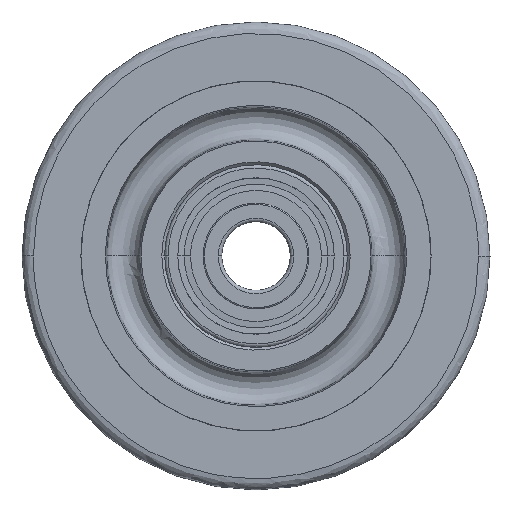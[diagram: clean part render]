
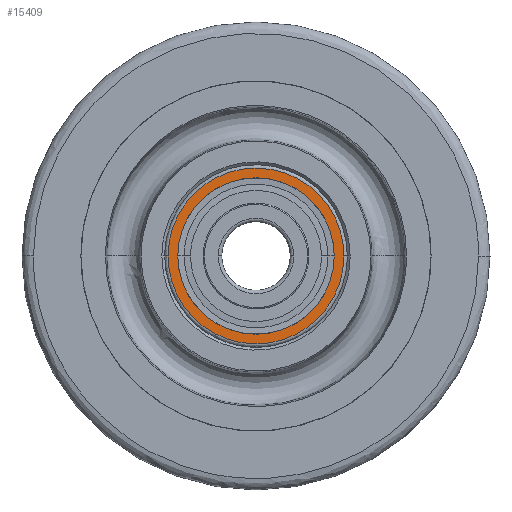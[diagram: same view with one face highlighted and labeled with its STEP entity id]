
A CAD part, left-side view. The second image highlights one B-rep face of the part: STEP entity #15409.
In plain terms, the highlighted planar face has unit normal (-1, 0, 0).
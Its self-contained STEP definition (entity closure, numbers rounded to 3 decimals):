
#3245 = CIRCLE ( 'NONE', #3313, 13.7 ) ;
#3310 = DIRECTION ( 'NONE',  ( 0., 0., -1. ) ) ;
#3311 = DIRECTION ( 'NONE',  ( 1., 0., 0. ) ) ;
#3312 = CARTESIAN_POINT ( 'NONE',  ( -13.1, 0., 0. ) ) ;
#3313 = AXIS2_PLACEMENT_3D ( 'NONE', #3312, #3311, #3310 ) ;
#3357 = CARTESIAN_POINT ( 'NONE',  ( -13.1, 15.4, 1.006 ) ) ;
#3358 = CARTESIAN_POINT ( 'NONE',  ( -13.1, 15.4, 0. ) ) ;
#3359 = CARTESIAN_POINT ( 'NONE',  ( -13.1, -15.4, 0. ) ) ;
#3360 = B_SPLINE_CURVE_WITH_KNOTS ( 'NONE', 3,
 ( #3358, #3357, #3425, #3424, #3423, #3422, #3421, #3420, #3419, #3418, #3417, #3416, #3415, #3414, #3413, #3412, #3411, #3410, #3409 ),
 .UNSPECIFIED., .F., .F.,
 ( 4, 1, 1, 1, 1, 1, 1, 1, 1, 1, 1, 1, 1, 1, 1, 1, 4 ),
 ( 0., 0.063, 0.125, 0.188, 0.25, 0.313, 0.375, 0.438, 0.5, 0.563, 0.625, 0.688, 0.75, 0.813, 0.875, 0.938, 1. ),
 .UNSPECIFIED. ) ;
#3409 = CARTESIAN_POINT ( 'NONE',  ( -13.1, -15.4, 0. ) ) ;
#3410 = CARTESIAN_POINT ( 'NONE',  ( -13.1, -15.4, 1.008 ) ) ;
#3411 = CARTESIAN_POINT ( 'NONE',  ( -13.1, -15.201, 3.024 ) ) ;
#3412 = CARTESIAN_POINT ( 'NONE',  ( -13.1, -14.319, 5.931 ) ) ;
#3413 = CARTESIAN_POINT ( 'NONE',  ( -13.1, -12.887, 8.611 ) ) ;
#3414 = CARTESIAN_POINT ( 'NONE',  ( -13.1, -10.96, 10.96 ) ) ;
#3415 = CARTESIAN_POINT ( 'NONE',  ( -13.1, -8.611, 12.887 ) ) ;
#3416 = CARTESIAN_POINT ( 'NONE',  ( -13.1, -5.931, 14.319 ) ) ;
#3417 = CARTESIAN_POINT ( 'NONE',  ( -13.1, -3.024, 15.201 ) ) ;
#3418 = CARTESIAN_POINT ( 'NONE',  ( -13.1, 0., 15.499 ) ) ;
#3419 = CARTESIAN_POINT ( 'NONE',  ( -13.1, 3.024, 15.201 ) ) ;
#3420 = CARTESIAN_POINT ( 'NONE',  ( -13.1, 5.931, 14.319 ) ) ;
#3421 = CARTESIAN_POINT ( 'NONE',  ( -13.1, 8.611, 12.887 ) ) ;
#3422 = CARTESIAN_POINT ( 'NONE',  ( -13.1, 10.96, 10.96 ) ) ;
#3423 = CARTESIAN_POINT ( 'NONE',  ( -13.1, 12.887, 8.611 ) ) ;
#3424 = CARTESIAN_POINT ( 'NONE',  ( -13.1, 14.319, 5.931 ) ) ;
#3425 = CARTESIAN_POINT ( 'NONE',  ( -13.1, 15.201, 3.025 ) ) ;
#3443 = CARTESIAN_POINT ( 'NONE',  ( -13.1, 0., -13.7 ) ) ;
#3444 = CARTESIAN_POINT ( 'NONE',  ( -13.1, 0., 13.7 ) ) ;
#3461 = CARTESIAN_POINT ( 'NONE',  ( -13.1, 15.4, 0. ) ) ;
#3462 = CARTESIAN_POINT ( 'NONE',  ( -13.1, 15.4, -1.006 ) ) ;
#3463 = CARTESIAN_POINT ( 'NONE',  ( -13.1, 15.201, -3.025 ) ) ;
#3464 = CARTESIAN_POINT ( 'NONE',  ( -13.1, 14.319, -5.931 ) ) ;
#3465 = CARTESIAN_POINT ( 'NONE',  ( -13.1, 12.887, -8.611 ) ) ;
#3466 = CARTESIAN_POINT ( 'NONE',  ( -13.1, 10.96, -10.96 ) ) ;
#3467 = CARTESIAN_POINT ( 'NONE',  ( -13.1, 8.611, -12.887 ) ) ;
#3468 = CARTESIAN_POINT ( 'NONE',  ( -13.1, 5.931, -14.319 ) ) ;
#3469 = CARTESIAN_POINT ( 'NONE',  ( -13.1, 3.024, -15.201 ) ) ;
#3470 = CARTESIAN_POINT ( 'NONE',  ( -13.1, 0., -15.499 ) ) ;
#3471 = CARTESIAN_POINT ( 'NONE',  ( -13.1, -3.024, -15.201 ) ) ;
#3472 = CARTESIAN_POINT ( 'NONE',  ( -13.1, -5.931, -14.319 ) ) ;
#3473 = CARTESIAN_POINT ( 'NONE',  ( -13.1, -8.611, -12.887 ) ) ;
#3474 = CARTESIAN_POINT ( 'NONE',  ( -13.1, -10.96, -10.96 ) ) ;
#3475 = CARTESIAN_POINT ( 'NONE',  ( -13.1, -12.887, -8.611 ) ) ;
#3525 = CARTESIAN_POINT ( 'NONE',  ( -13.1, -14.319, -5.931 ) ) ;
#3526 = CARTESIAN_POINT ( 'NONE',  ( -13.1, -15.201, -3.024 ) ) ;
#3527 = CARTESIAN_POINT ( 'NONE',  ( -13.1, -15.4, -1.008 ) ) ;
#3528 = CARTESIAN_POINT ( 'NONE',  ( -13.1, -15.4, 0. ) ) ;
#3531 = B_SPLINE_CURVE_WITH_KNOTS ( 'NONE', 3,
 ( #3528, #3527, #3526, #3525, #3475, #3474, #3473, #3472, #3471, #3470, #3469, #3468, #3467, #3466, #3465, #3464, #3463, #3462, #3461 ),
 .UNSPECIFIED., .F., .F.,
 ( 4, 1, 1, 1, 1, 1, 1, 1, 1, 1, 1, 1, 1, 1, 1, 1, 4 ),
 ( 0., 0.062, 0.125, 0.187, 0.25, 0.312, 0.375, 0.437, 0.5, 0.562, 0.625, 0.687, 0.75, 0.813, 0.875, 0.937, 1. ),
 .UNSPECIFIED. ) ;
#3980 = CIRCLE ( 'NONE', #4172, 13.7 ) ;
#4169 = DIRECTION ( 'NONE',  ( 0., 0., -1. ) ) ;
#4170 = DIRECTION ( 'NONE',  ( 1., 0., 0. ) ) ;
#4171 = CARTESIAN_POINT ( 'NONE',  ( -13.1, 0., 0. ) ) ;
#4172 = AXIS2_PLACEMENT_3D ( 'NONE', #4171, #4170, #4169 ) ;
#4934 = DIRECTION ( 'NONE',  ( 0., 0., 1. ) ) ;
#4970 = DIRECTION ( 'NONE',  ( -1., 0., 0. ) ) ;
#4971 = AXIS2_PLACEMENT_3D ( 'NONE', #4972, #4970, #4934 ) ;
#4972 = CARTESIAN_POINT ( 'NONE',  ( -13.1, -30.8, -30.8 ) ) ;
#4973 = PLANE ( 'NONE',  #4971 ) ;
#4974 = FACE_BOUND ( 'NONE', #15408, .T. ) ;
#4976 = FACE_OUTER_BOUND ( 'NONE', #15461, .T. ) ;
#6422 = CARTESIAN_POINT ( 'NONE',  ( -13.1, 15.4, 0. ) ) ;
#15249 = EDGE_CURVE ( 'NONE', #15278, #15279, #3245, .T. ) ;
#15266 = EDGE_CURVE ( 'NONE', #15479, #15267, #3360, .T. ) ;
#15267 = VERTEX_POINT ( 'NONE', #3359 ) ;
#15276 = EDGE_CURVE ( 'NONE', #15267, #15479, #3531, .T. ) ;
#15278 = VERTEX_POINT ( 'NONE', #3444 ) ;
#15279 = VERTEX_POINT ( 'NONE', #3443 ) ;
#15314 = ORIENTED_EDGE ( 'NONE', *, *, #15315, .T. ) ;
#15315 = EDGE_CURVE ( 'NONE', #15279, #15278, #3980, .T. ) ;
#15316 = ORIENTED_EDGE ( 'NONE', *, *, #15249, .T. ) ;
#15317 = ORIENTED_EDGE ( 'NONE', *, *, #15276, .F. ) ;
#15318 = ORIENTED_EDGE ( 'NONE', *, *, #15266, .F. ) ;
#15408 = EDGE_LOOP ( 'NONE', ( #15314, #15316 ) ) ;
#15409 = ADVANCED_FACE ( 'NONE', ( #4974, #4976 ), #4973, .T. ) ;
#15461 = EDGE_LOOP ( 'NONE', ( #15317, #15318 ) ) ;
#15479 = VERTEX_POINT ( 'NONE', #6422 ) ;
